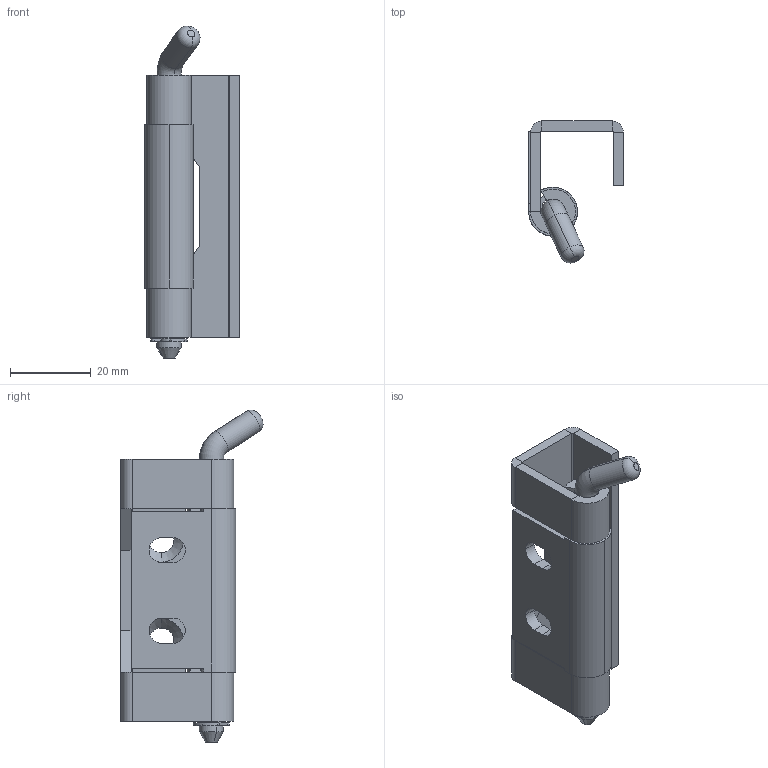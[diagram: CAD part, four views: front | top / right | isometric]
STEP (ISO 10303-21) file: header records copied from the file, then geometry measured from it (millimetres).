
FILE_DESCRIPTION (( 'STEP AP214' ), '1' );
FILE_NAME ('3.ST12-2.001.STEP', '2010-06-02T10:23:07', ( 'Techniczny' ), ( 'RST Roztocze' ), 'SwSTEP 2.0', 'SolidWorks 2010', '' );
FILE_SCHEMA (( 'AUTOMOTIVE_DESIGN' ));
Length unit declared in the file: millimetre
Products named in the file (5): 3B.ST12-2 czêœæ wewnêtrzna_Default; 3.ST12-2 czêœæ zewnêtrzna_Default; 3.ST12-2 sworzeñ_Default; DIN 6799 - 4; 3.ST12-2.001
Assembly tree (4 placements, depth 2):
  3.ST12-2.001
    3B.ST12-2 czêœæ wewnêtrzna_Default
    3.ST12-2 sworzeñ_Default
    DIN 6799 - 4
    3.ST12-2 czêœæ zewnêtrzna_Default
Bounding box: 23.5 x 35.26 x 82.37 mm (x, y, z)
Volume: 13872.4 mm3; surface area: 12192.6 mm2
Topology: 4 solids, 4 shells, 133 faces, 323 edges, 200 vertices
Faces by surface type: plane 64, cylinder 57, cone 6, torus 4, bspline 2
Entity records: 5491 total; most frequent: CARTESIAN_POINT 2101, DIRECTION 707, ORIENTED_EDGE 646, EDGE_CURVE 323, AXIS2_PLACEMENT_3D 258, VERTEX_POINT 200, LINE 191, VECTOR 191
